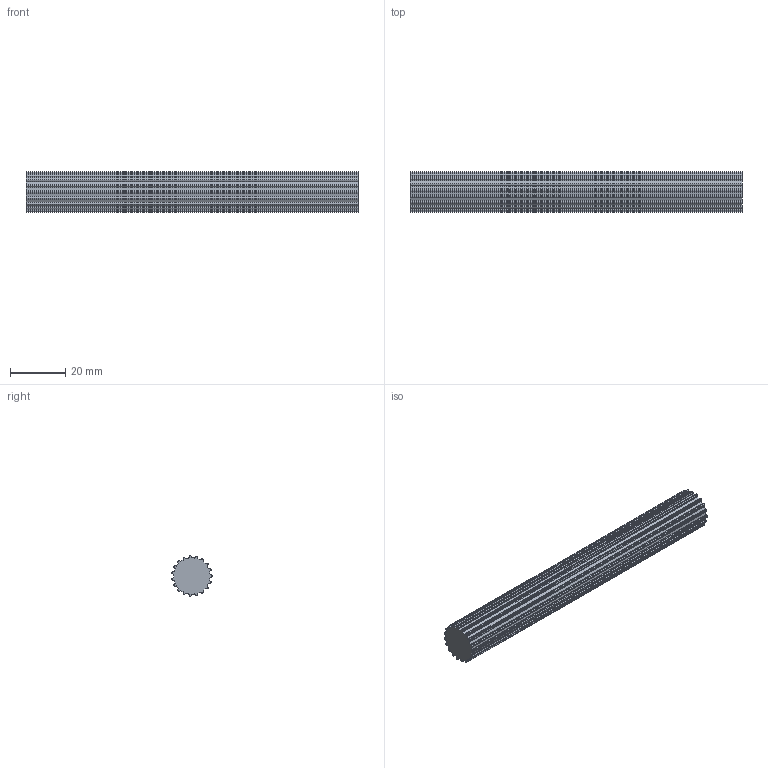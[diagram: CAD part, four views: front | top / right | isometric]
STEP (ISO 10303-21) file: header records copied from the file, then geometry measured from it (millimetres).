
FILE_DESCRIPTION( ( 'STEP AP214' ), '1' );
FILE_NAME( 'C:/Users/StangenbergN/Documents/CAD_Step/1/16091900.stp', '2019-07-25T19:41:03', ( '' ), ( '' ), ' ', 'PARTsolutions', ' ' );
FILE_SCHEMA( ( 'AUTOMOTIVE_DESIGN { 1 0 10303 214 1 1 1 1 }' ) );
Length unit declared in the file: millimetre
Products named in the file (1): _16091900
Bounding box: 120 x 14.54 x 14.58 mm (x, y, z)
Volume: 17588.8 mm3; surface area: 7508.4 mm2
Topology: 1 solids, 1 shells, 154 faces, 456 edges, 304 vertices
Faces by surface type: cylinder 95, plane 59
Entity records: 6478 total; most frequent: DIRECTION 956, CARTESIAN_POINT 915, ORIENTED_EDGE 912, EDGE_CURVE 456, AXIS2_PLACEMENT_3D 345, VERTEX_POINT 304, LINE 266, VECTOR 266
